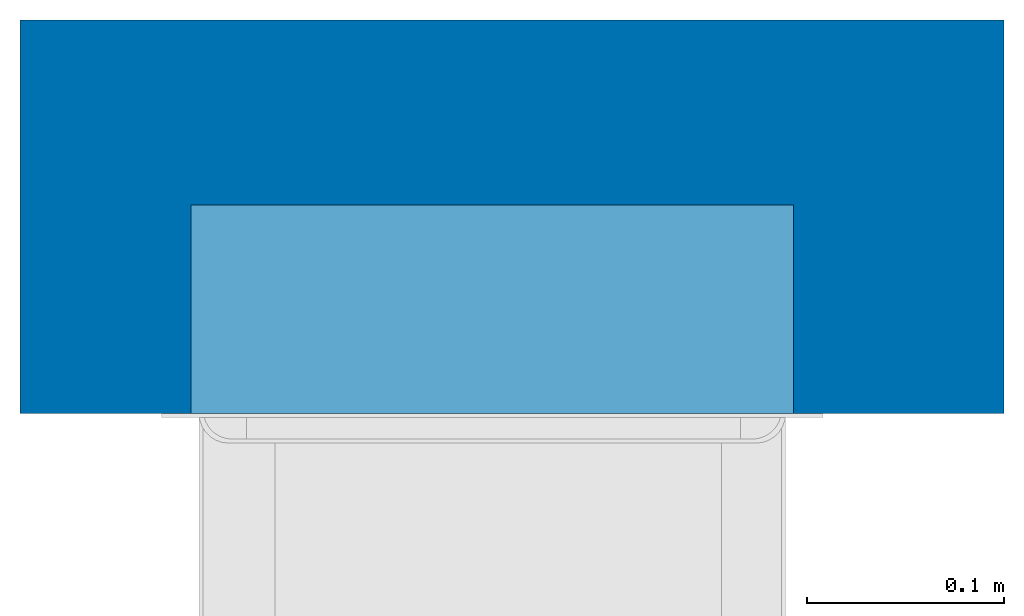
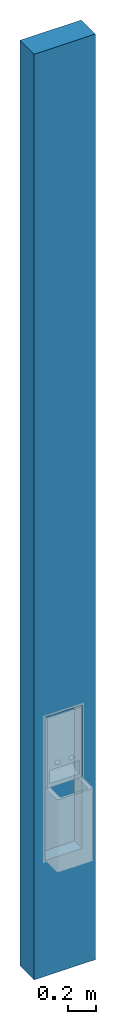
# One storey, part 1 of 2: 1 wall, 1 opening.
"""IFC2X3 building model written with IfcOpenShell, lengths in millimetres."""

from ifc_helpers import new_model, entity, si_unit, converted_unit, derived_unit, direction, frame, frame_2d, origin, place, context, subcontext, project, spatial, rectangle, extrude, material, layer, layer_set, layer_usage, type_object, element, save


model = new_model("IFC2X3")

# Units and contexts
model_context = context("Model", 3, precision=0.01, world=origin(), true_north=direction((6.123031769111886e-17, 1.0)))
body_context = subcontext(model_context, "Body", "Model", "MODEL_VIEW")
ifc_project = project(units=[si_unit("LENGTHUNIT", "METRE", prefix="MILLI"), si_unit("AREAUNIT", "SQUARE_METRE"), si_unit("VOLUMEUNIT", "CUBIC_METRE"), converted_unit("PLANEANGLEUNIT", "DEGREE", entity("IfcPlaneAngleMeasure", 0.017453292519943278), si_unit("PLANEANGLEUNIT", "RADIAN"), dimensions=[0, 0, 0, 0, 0, 0, 0]), si_unit("MASSUNIT", "GRAM", prefix="KILO"), derived_unit("MASSDENSITYUNIT", [(si_unit("MASSUNIT", "GRAM", prefix="KILO"), 1), (si_unit("LENGTHUNIT", "METRE"), -3)]), derived_unit("IONCONCENTRATIONUNIT", [(si_unit("MASSUNIT", "GRAM", prefix="KILO"), 1), (si_unit("LENGTHUNIT", "METRE"), -3)]), derived_unit("MOMENTOFINERTIAUNIT", [(si_unit("LENGTHUNIT", "METRE"), 4)]), si_unit("TIMEUNIT", "SECOND"), si_unit("FREQUENCYUNIT", "HERTZ"), si_unit("THERMODYNAMICTEMPERATUREUNIT", "DEGREE_CELSIUS"), derived_unit("THERMALTRANSMITTANCEUNIT", [(si_unit("MASSUNIT", "GRAM", prefix="KILO"), 1), (si_unit("THERMODYNAMICTEMPERATUREUNIT", "KELVIN"), -1), (si_unit("TIMEUNIT", "SECOND"), -3)]), derived_unit("THERMALCONDUCTANCEUNIT", [(si_unit("MASSUNIT", "GRAM", prefix="KILO"), 1), (si_unit("THERMODYNAMICTEMPERATUREUNIT", "KELVIN"), -1), (si_unit("TIMEUNIT", "SECOND"), -3), (si_unit("LENGTHUNIT", "METRE"), 1)]), derived_unit("VOLUMETRICFLOWRATEUNIT", [(si_unit("LENGTHUNIT", "METRE", prefix="DECI"), 3), (si_unit("TIMEUNIT", "SECOND"), -1)]), derived_unit("MASSFLOWRATEUNIT", [(si_unit("MASSUNIT", "GRAM", prefix="KILO"), 1), (si_unit("TIMEUNIT", "SECOND"), -1)]), derived_unit("ROTATIONALFREQUENCYUNIT", [(si_unit("TIMEUNIT", "SECOND"), -1)]), si_unit("ELECTRICCURRENTUNIT", "AMPERE"), si_unit("ELECTRICVOLTAGEUNIT", "VOLT"), si_unit("POWERUNIT", "WATT"), si_unit("FORCEUNIT", "NEWTON", prefix="KILO"), si_unit("ILLUMINANCEUNIT", "LUX"), si_unit("LUMINOUSFLUXUNIT", "LUMEN"), si_unit("LUMINOUSINTENSITYUNIT", "CANDELA"), si_unit("ENERGYUNIT", "JOULE"), derived_unit("USERDEFINED", [(si_unit("MASSUNIT", "GRAM", prefix="KILO"), -1), (si_unit("LENGTHUNIT", "METRE"), -2), (si_unit("TIMEUNIT", "SECOND"), 3), (si_unit("LUMINOUSFLUXUNIT", "LUMEN"), 1)]), derived_unit("USERDEFINED", [(si_unit("MASSUNIT", "GRAM", prefix="KILO"), 1), (si_unit("TIMEUNIT", "SECOND"), -3), (si_unit("LENGTHUNIT", "METRE"), 3), (si_unit("ELECTRICCURRENTUNIT", "AMPERE"), -2)]), derived_unit("SOUNDPOWERUNIT", [(si_unit("MASSUNIT", "GRAM", prefix="KILO"), 1), (si_unit("TIMEUNIT", "SECOND"), -3), (si_unit("LENGTHUNIT", "METRE"), 2)]), derived_unit("SOUNDPRESSUREUNIT", [(si_unit("MASSUNIT", "GRAM", prefix="KILO"), 1), (si_unit("LENGTHUNIT", "METRE"), -1), (si_unit("TIMEUNIT", "SECOND"), -2)]), derived_unit("LINEARVELOCITYUNIT", [(si_unit("LENGTHUNIT", "METRE"), 1), (si_unit("TIMEUNIT", "SECOND"), -1)]), si_unit("PRESSUREUNIT", "PASCAL"), derived_unit("USERDEFINED", [(si_unit("MASSUNIT", "GRAM", prefix="KILO"), 1), (si_unit("LENGTHUNIT", "METRE"), -2), (si_unit("TIMEUNIT", "SECOND"), -2)]), derived_unit("LINEARFORCEUNIT", [(si_unit("MASSUNIT", "GRAM", prefix="KILO"), 1), (si_unit("TIMEUNIT", "SECOND"), -2)]), derived_unit("PLANARFORCEUNIT", [(si_unit("MASSUNIT", "GRAM", prefix="KILO"), 1), (si_unit("LENGTHUNIT", "METRE"), -1), (si_unit("TIMEUNIT", "SECOND"), -2)]), derived_unit("SPECIFICHEATCAPACITYUNIT", [(si_unit("THERMODYNAMICTEMPERATUREUNIT", "KELVIN"), -1), (si_unit("LENGTHUNIT", "METRE"), 2), (si_unit("TIMEUNIT", "SECOND"), -2)]), derived_unit("HEATFLUXDENSITYUNIT", [(si_unit("MASSUNIT", "GRAM", prefix="KILO"), 1), (si_unit("TIMEUNIT", "SECOND"), -3)]), derived_unit("HEATINGVALUEUNIT", [(si_unit("LENGTHUNIT", "METRE"), 2), (si_unit("TIMEUNIT", "SECOND"), -2)]), derived_unit("VAPORPERMEABILITYUNIT", [(si_unit("LENGTHUNIT", "METRE"), -1), (si_unit("TIMEUNIT", "SECOND"), 1)]), derived_unit("DYNAMICVISCOSITYUNIT", [(si_unit("MASSUNIT", "GRAM", prefix="KILO"), 1), (si_unit("TIMEUNIT", "SECOND"), -1), (si_unit("LENGTHUNIT", "METRE"), -1)]), derived_unit("THERMALEXPANSIONCOEFFICIENTUNIT", [(si_unit("THERMODYNAMICTEMPERATUREUNIT", "KELVIN"), -1)]), derived_unit("MODULUSOFELASTICITYUNIT", [(si_unit("MASSUNIT", "GRAM", prefix="KILO"), 1), (si_unit("LENGTHUNIT", "METRE"), -1), (si_unit("TIMEUNIT", "SECOND"), -2)]), derived_unit("ISOTHERMALMOISTURECAPACITYUNIT", [(si_unit("MASSUNIT", "GRAM", prefix="KILO"), -1), (si_unit("LENGTHUNIT", "METRE"), 3)]), derived_unit("MOISTUREDIFFUSIVITYUNIT", [(si_unit("TIMEUNIT", "SECOND"), -1), (si_unit("LENGTHUNIT", "METRE"), 2)]), derived_unit("MASSPERLENGTHUNIT", [(si_unit("MASSUNIT", "GRAM", prefix="KILO"), 1), (si_unit("LENGTHUNIT", "METRE"), -1)]), derived_unit("THERMALRESISTANCEUNIT", [(si_unit("MASSUNIT", "GRAM", prefix="KILO"), -1), (si_unit("TIMEUNIT", "SECOND"), 3), (si_unit("THERMODYNAMICTEMPERATUREUNIT", "KELVIN"), 1)]), derived_unit("ACCELERATIONUNIT", [(si_unit("LENGTHUNIT", "METRE"), 1), (si_unit("TIMEUNIT", "SECOND"), -2)]), derived_unit("ANGULARVELOCITYUNIT", [(si_unit("TIMEUNIT", "SECOND"), -1), (si_unit("PLANEANGLEUNIT", "RADIAN"), 1)]), derived_unit("LINEARSTIFFNESSUNIT", [(si_unit("MASSUNIT", "GRAM", prefix="KILO"), 1), (si_unit("TIMEUNIT", "SECOND"), -2)]), derived_unit("WARPINGCONSTANTUNIT", [(si_unit("LENGTHUNIT", "METRE"), 6)]), derived_unit("LINEARMOMENTUNIT", [(si_unit("MASSUNIT", "GRAM", prefix="KILO"), 1), (si_unit("LENGTHUNIT", "METRE"), 1), (si_unit("TIMEUNIT", "SECOND"), -2)]), derived_unit("TORQUEUNIT", [(si_unit("MASSUNIT", "GRAM", prefix="KILO"), 1), (si_unit("LENGTHUNIT", "METRE"), 2), (si_unit("TIMEUNIT", "SECOND"), -2)])], contexts=[model_context])

# Site, building, storey
site_placement = place(None, origin())
site = spatial("IfcSite", under=ifc_project, at=site_placement, Name="Default", CompositionType="ELEMENT")
building_placement = place(site_placement, origin())
building = spatial("IfcBuilding", under=site, at=building_placement, CompositionType="ELEMENT")
storey_placement = place(building_placement, origin())
storey = spatial("IfcBuildingStorey", under=building, at=storey_placement, Name="Level 1", CompositionType="ELEMENT", Elevation=0.0)

# Wall, opening
ifc_material = material(Name="Default Wall")
ifc_layer = layer(ifc_material, 200.0)
ifc_layer_set = layer_set([ifc_layer], Name="Basic Wall:Generic - 200mm")
ifc_layer_usage = layer_usage(ifc_layer_set, "AXIS2", "NEGATIVE", 100.0)
wall_type = type_object("IfcWallType", Name="Basic Wall:Generic - 200mm", PredefinedType="STANDARD", material=ifc_layer_set)
wall_placement = place(storey_placement, frame((-975.8012978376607, 92.74902737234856, 0.0)))
wall = element("IfcWallStandardCase", 1, at=wall_placement, inside=storey, type_object=wall_type, material=ifc_layer_usage, Name="Basic Wall:Generic - 200mm", ObjectType="Basic Wall:Generic - 200mm", context=body_context, shape_type="SweptSolid", body=[
    extrude(rectangle(XDim=500.0000000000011, YDim=200.00000000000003, at=frame_2d((250.00000000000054, 0.0), x_axis=(-1.0, 0.0))), origin(), (0.0, 0.0, 1.0), 8000.000000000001),
])
opening_placement = place(wall_placement, origin())
element("IfcOpeningElement", 2, at=opening_placement, cuts=wall, Name="Basic Wall:Generic - 200mm", ObjectType="Recess", context=body_context, shape_type="SweptSolid", body=[
    extrude(rectangle(XDim=1241.999999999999, YDim=306.0000000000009, at=frame_2d((0.0, -7.105427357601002e-14), x_axis=(1.0, 0.0))), frame((240.0, -100.0, 1621.0), z_axis=(0.0, 1.0, 0.0), x_axis=(0.0, 0.0, 1.0)), (0.0, 0.0, 1.0), 106.0),
])

save(model, "model.ifc")
